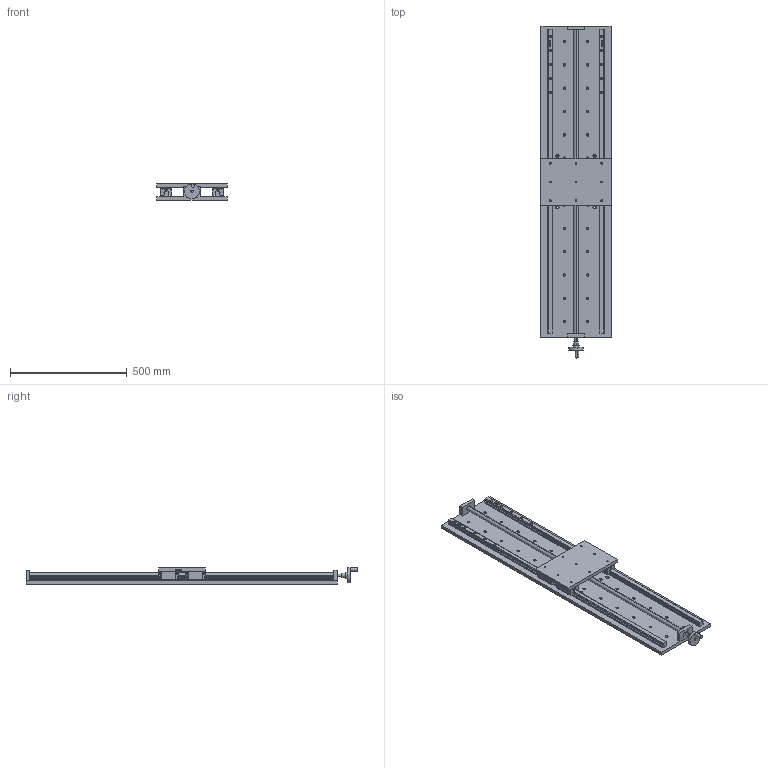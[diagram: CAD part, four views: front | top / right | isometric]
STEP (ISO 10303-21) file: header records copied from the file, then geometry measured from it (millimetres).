
FILE_DESCRIPTION (( 'STEP AP214' ), '1' );
FILE_NAME ('PT300-1100.STEP', '2022-09-18T06:24:34', ( '' ), ( '' ), 'SwSTEP 2.0', 'SolidWorks 2017', '' );
FILE_SCHEMA (( 'AUTOMOTIVE_DESIGN' ));
Length unit declared in the file: millimetre
Products named in the file (12): HGR25_temp-1100; 標踡; PT300-1100; 忒謫; M6H; HGH25CA2R300Z0C_GW202204023669; 34320001; 標踡輸; 菁啣-1100; 醱啣; HGH25C__X2_5DE65C01_X0__temp; HGH25C__X2_53F35C01_X0__temp
Assembly tree (12 placements, depth 3):
  PT300-1100
    菁啣-1100
    醱啣
    HGH25CA2R300Z0C_GW202204023669  x2
      HGR25_temp-1100
      HGH25C__X2_53F35C01_X0__temp
      M6H
      HGH25C__X2_5DE65C01_X0__temp
      34320001
    標踡
      標踡輸
      忒謫
Bounding box: 300 x 1422.1 x 70.06 mm (x, y, z)
Volume: 8960643.8 mm3; surface area: 1479035.7 mm2
Topology: 31 solids, 33 shells, 3099 faces, 8662 edges, 5718 vertices
Faces by surface type: plane 2003, cylinder 830, bspline 202, cone 56, torus 8
Entity records: 75737 total; most frequent: CARTESIAN_POINT 15156, ORIENTED_EDGE 9664, DIRECTION 8820, EDGE_CURVE 4832, LINE 3454, VECTOR 3454, VERTEX_POINT 3207, AXIS2_PLACEMENT_3D 2683
